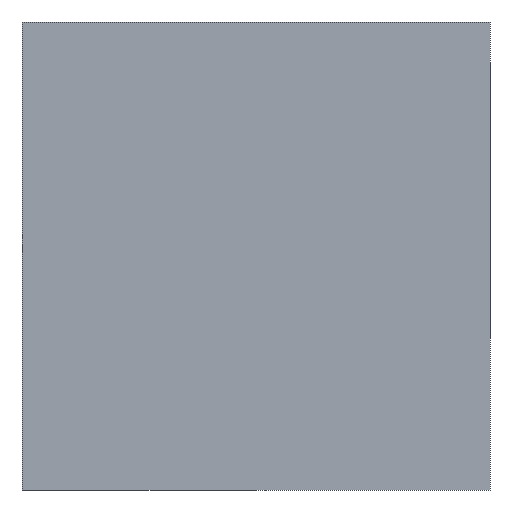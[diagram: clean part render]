
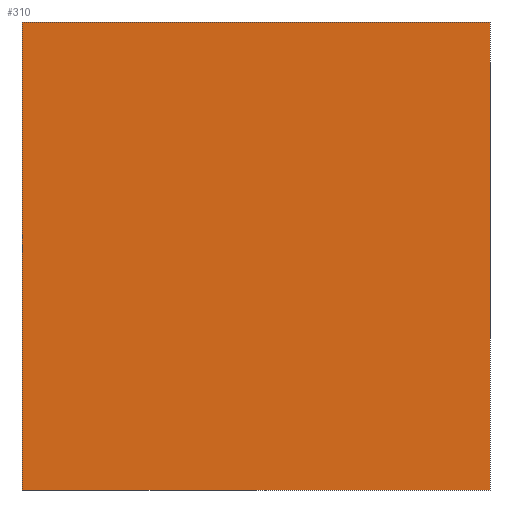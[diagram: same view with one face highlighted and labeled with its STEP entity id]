
A CAD part, left-side view. The second image highlights one B-rep face of the part: STEP entity #310.
In plain terms, the highlighted planar face has unit normal (-1, 0, 0).
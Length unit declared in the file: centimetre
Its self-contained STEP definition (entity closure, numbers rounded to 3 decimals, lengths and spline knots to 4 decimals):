
#16 = LINE ( 'NONE', #326, #173 ) ;
#35 = DIRECTION ( 'NONE',  ( 0., 0., -1. ) ) ;
#39 = PLANE ( 'NONE',  #280 ) ;
#51 = CARTESIAN_POINT ( 'NONE',  ( 0., 0., 0. ) ) ;
#55 = ORIENTED_EDGE ( 'NONE', *, *, #439, .F. ) ;
#60 = DIRECTION ( 'NONE',  ( 0., -1., 0. ) ) ;
#78 = LINE ( 'NONE', #499, #231 ) ;
#129 = CARTESIAN_POINT ( 'NONE',  ( 0., 1000., 1000. ) ) ;
#145 = ORIENTED_EDGE ( 'NONE', *, *, #428, .T. ) ;
#173 = VECTOR ( 'NONE', #558, 100. ) ;
#208 = DIRECTION ( 'NONE',  ( 0., 0., -1. ) ) ;
#229 = ORIENTED_EDGE ( 'NONE', *, *, #369, .T. ) ;
#231 = VECTOR ( 'NONE', #208, 100. ) ;
#275 = LINE ( 'NONE', #470, #317 ) ;
#280 = AXIS2_PLACEMENT_3D ( 'NONE', #295, #446, #35 ) ;
#281 = CARTESIAN_POINT ( 'NONE',  ( 0., 1000., 0. ) ) ;
#289 = ORIENTED_EDGE ( 'NONE', *, *, #334, .F. ) ;
#295 = CARTESIAN_POINT ( 'NONE',  ( 0., 1000., 1000. ) ) ;
#310 = ADVANCED_FACE ( 'NONE', ( #451 ), #39, .F. ) ;
#317 = VECTOR ( 'NONE', #60, 100. ) ;
#320 = CARTESIAN_POINT ( 'NONE',  ( 0., 1000., 1000. ) ) ;
#326 = CARTESIAN_POINT ( 'NONE',  ( 0., 1000., 1000. ) ) ;
#329 = CARTESIAN_POINT ( 'NONE',  ( 0., 0., 1000. ) ) ;
#334 = EDGE_CURVE ( 'NONE', #563, #571, #78, .T. ) ;
#338 = DIRECTION ( 'NONE',  ( 0., 0., -1. ) ) ;
#369 = EDGE_CURVE ( 'NONE', #425, #568, #539, .T. ) ;
#425 = VERTEX_POINT ( 'NONE', #320 ) ;
#428 = EDGE_CURVE ( 'NONE', #568, #571, #275, .T. ) ;
#439 = EDGE_CURVE ( 'NONE', #425, #563, #16, .T. ) ;
#446 = DIRECTION ( 'NONE',  ( 1., 0., 0. ) ) ;
#451 = FACE_OUTER_BOUND ( 'NONE', #476, .T. ) ;
#470 = CARTESIAN_POINT ( 'NONE',  ( 0., 1000., 0. ) ) ;
#476 = EDGE_LOOP ( 'NONE', ( #145, #289, #55, #229 ) ) ;
#499 = CARTESIAN_POINT ( 'NONE',  ( 0., 0., 1000. ) ) ;
#539 = LINE ( 'NONE', #129, #573 ) ;
#558 = DIRECTION ( 'NONE',  ( 0., -1., 0. ) ) ;
#563 = VERTEX_POINT ( 'NONE', #329 ) ;
#568 = VERTEX_POINT ( 'NONE', #281 ) ;
#571 = VERTEX_POINT ( 'NONE', #51 ) ;
#573 = VECTOR ( 'NONE', #338, 100. ) ;
